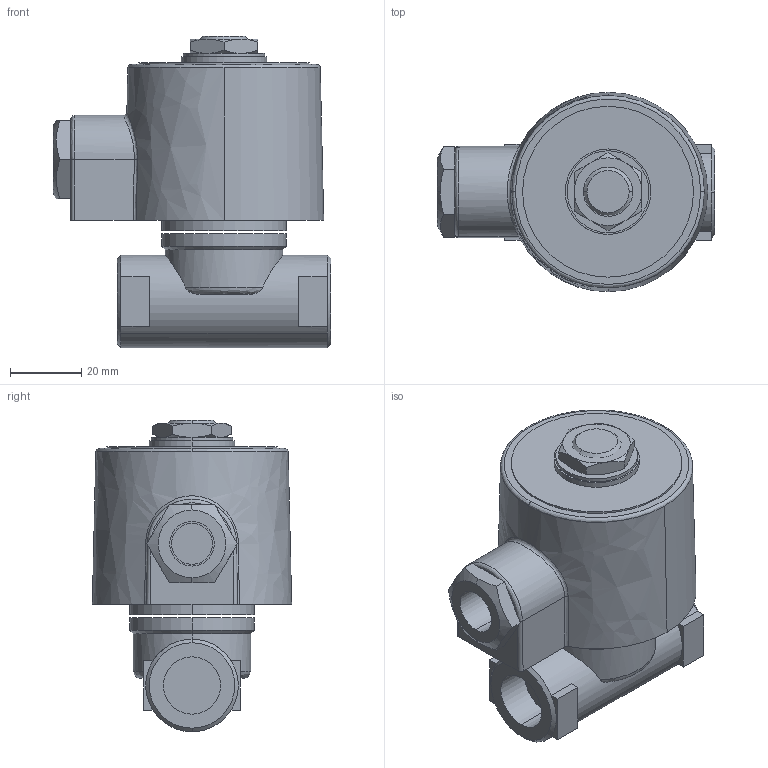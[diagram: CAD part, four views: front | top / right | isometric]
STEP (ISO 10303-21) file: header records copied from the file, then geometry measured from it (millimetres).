
FILE_DESCRIPTION( (''), '2;1');
FILE_NAME ('PC1027.5908.DD-3 15A 3D_24807.stp','2025-07-28T17:52:31',(''),(''),'spGate 19.8.4 (****-****-****-****)','','');
FILE_SCHEMA (('AUTOMOTIVE_DESIGN'));
Length unit declared in the file: millimetre
Products named in the file (5): Assembly; benbako15A; pipe; ACコイル10A; ACコイル10A部品
Assembly tree (4 placements, depth 2):
  Assembly
    benbako15A
    pipe
    ACコイル10A
    ACコイル10A部品
Bounding box: 78 x 56 x 87.5 mm (x, y, z)
Volume: 158549.1 mm3; surface area: 35225 mm2
Topology: 4 solids, 4 shells, 138 faces, 310 edges, 192 vertices
Faces by surface type: plane 65, bspline 40, cylinder 33
Entity records: 7306 total; most frequent: CARTESIAN_POINT 1825, ORIENTED_EDGE 620, DIRECTION 539, COLOUR_RGB 452, PRESENTATION_STYLE_ASSIGNMENT 452, STYLED_ITEM 452, EDGE_CURVE 310, DRAUGHTING_PRE_DEFINED_CURVE_FONT 310
